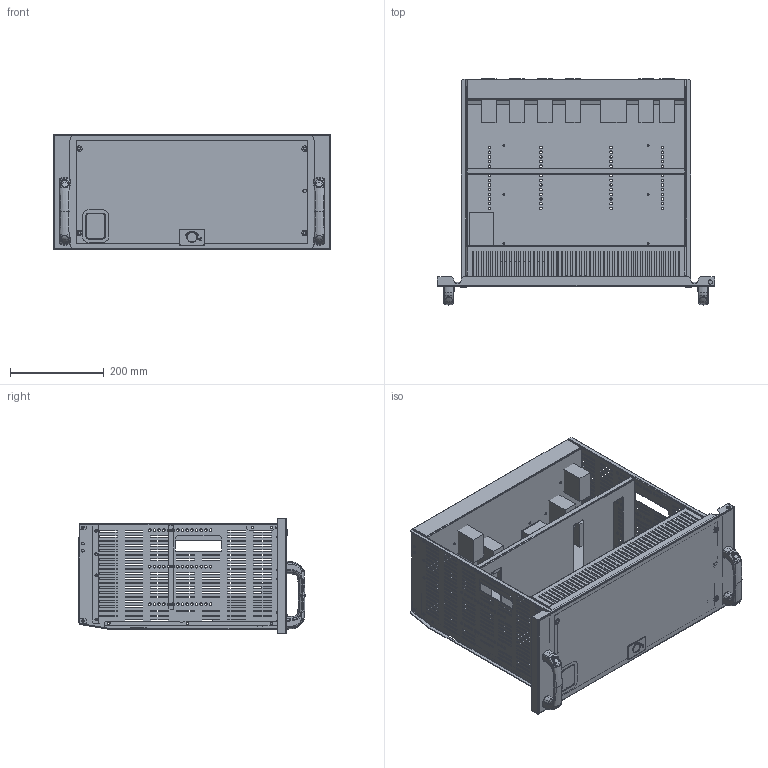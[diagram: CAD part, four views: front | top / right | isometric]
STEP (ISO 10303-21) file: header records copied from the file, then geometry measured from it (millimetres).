
FILE_DESCRIPTION(('CAx-IF Rec.Pracs.---Model Styling and Organization---1.2---2011-12-15','CAx-IF Rec.Pracs.---Geometric and Assembly Validation Properties---4.1---2014-06-16','CAx-IF Rec.Pracs.---PMI Polyline Presentation---2.0---2013-05-24'),'2;1');
FILE_NAME('5М1.stp','2021-05-05T11:48:28+03:00',(''),(''),'STEP Interface 4.4 by CT CoreTechnologie','3D_Evolution4.4 by CT CoreTechnologie','');
FILE_SCHEMA(('AUTOMOTIVE_DESIGN { 1 0 10303 214 1 1 1 1 }'));
Length unit declared in the file: millimetre
Products named in the file (33): 5Ì1; RB.1511.00.00.0_-02; ñèëîâûå áîëüøèå òîêè; M6x12 (A1100001)_stright; RB.1356.00.00.0; RB.1166.00.00.0 ÑÁ_-02; PF 3.5x7 RAMmcc 2.0_00; RB.1166.00.01.0_-02; RB.1166.00.02.0_¢ à 1; RB.1166.00.03.0_-00; RB.1166.00.04.0_-00; PF 7x14 RAMmcc 2.0_51; AC00C061_AC00C061; Ì6õ12-A5100231_straight; 6-GOST 11371-78 (DIN 125) PA 6.6_6-GOST 11371-78 (DIN 125) PA 6.6; áëîêèðîâêà ìåõàíèçì; ìåõàíèçì; êíîïêà; M6x20 GOST 17475-80 (DIN 965)_stright; 4.444.002(1); PR.DT477.120.02-poprawa; PR.DT477.120.01; 4.444.002(2); RB.1505.00.00.0 ÑÁ_1; RB.1505.00.01.0_1; RB.1499.00.00.0 ÑÁ_-02; RB.1499.00.01.0_-02; M6 art.MGR-MKO-0625_2¬¬; R5M2W3M1BR22_R5MW31BR22; RB.1506.00.00.0_-05; RB.1501.00.00.0 ÑÁ_-02; RB.1501.00.01.0_-02; ñèãíàëüíûå
Assembly tree (55 placements, depth 3):
  5Ì1
    RB.1511.00.00.0_-02
    ñèëîâûå áîëüøèå òîêè  x7
    M6x12 (A1100001)_stright  x4
    RB.1356.00.00.0
    RB.1166.00.00.0 ÑÁ_-02
      PF 3.5x7 RAMmcc 2.0_00
      RB.1166.00.01.0_-02
      RB.1166.00.02.0_¢ à 1
      RB.1166.00.03.0_-00
      RB.1166.00.04.0_-00
      PF 7x14 RAMmcc 2.0_51
      AC00C061_AC00C061
      Ì6õ12-A5100231_straight
    6-GOST 11371-78 (DIN 125) PA 6.6_6-GOST 11371-78 (DIN 125) PA 6.6  x4
    áëîêèðîâêà ìåõàíèçì
    ìåõàíèçì
    êíîïêà
    M6x20 GOST 17475-80 (DIN 965)_stright  x4
    4.444.002(1)
      PR.DT477.120.02-poprawa  x2
      PR.DT477.120.01
    4.444.002(2)
      PR.DT477.120.02-poprawa  x2
      PR.DT477.120.01
    RB.1505.00.00.0 ÑÁ_1
      RB.1505.00.01.0_1
    RB.1499.00.00.0 ÑÁ_-02
      RB.1499.00.01.0_-02
      M6 art.MGR-MKO-0625_2¬¬  x3
    R5M2W3M1BR22_R5MW31BR22
      RB.1506.00.00.0_-05
    RB.1501.00.00.0 ÑÁ_-02
      RB.1501.00.01.0_-02
      M6 art.MGR-MKO-0625_2¬¬  x2
    ñèãíàëüíûå
Bounding box: 594 x 483.5 x 247.19 mm (x, y, z)
Surface area: 2088270.2 mm2 (no closed solid volume)
Topology: 0 solids, 67 shells, 3999 faces, 10908 edges, 6967 vertices
Faces by surface type: plane 2114, cylinder 970, bspline 915
Entity records: 135350 total; most frequent: CARTESIAN_POINT 29150, ORIENTED_EDGE 16934, DIRECTION 15844, EDGE_CURVE 8468, VECTOR 6054, LINE 6054, VERTEX_POINT 5523, AXIS2_PLACEMENT_3D 4895
